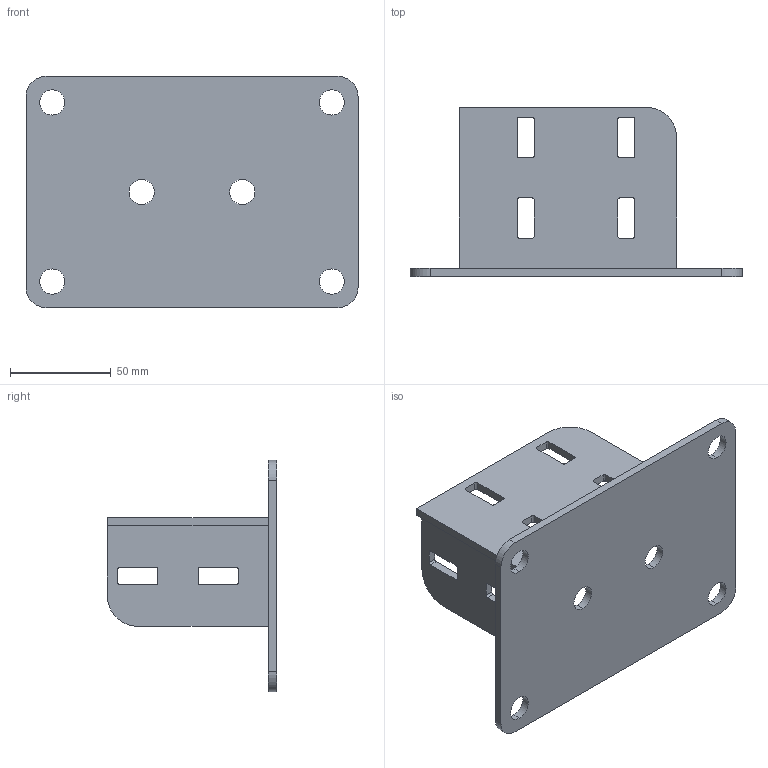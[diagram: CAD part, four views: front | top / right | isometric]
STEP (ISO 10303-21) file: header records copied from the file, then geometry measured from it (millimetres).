
FILE_DESCRIPTION (( 'STEP AP203' ), '1' );
FILE_NAME ('11502.STEP', '2017-04-25T09:45:25', ( '' ), ( '' ), 'SwSTEP 2.0', 'SolidWorks 2014', '' );
FILE_SCHEMA (( 'CONFIG_CONTROL_DESIGN' ));
Length unit declared in the file: millimetre
Products named in the file (4): 鸙_﨩2; 11502; îïîðà; 鸙_﨩1
Assembly tree (3 placements, depth 2):
  11502
    îïîðà
    鸙_﨩1
    鸙_﨩2
Bounding box: 165 x 84 x 115 mm (x, y, z)
Volume: 118725.7 mm3; surface area: 66296 mm2
Topology: 3 solids, 3 shells, 84 faces, 234 edges, 156 vertices
Faces by surface type: cylinder 42, plane 42
Entity records: 3184 total; most frequent: DIRECTION 498, CARTESIAN_POINT 480, ORIENTED_EDGE 468, EDGE_CURVE 234, AXIS2_PLACEMENT_3D 174, VERTEX_POINT 156, LINE 150, VECTOR 150
